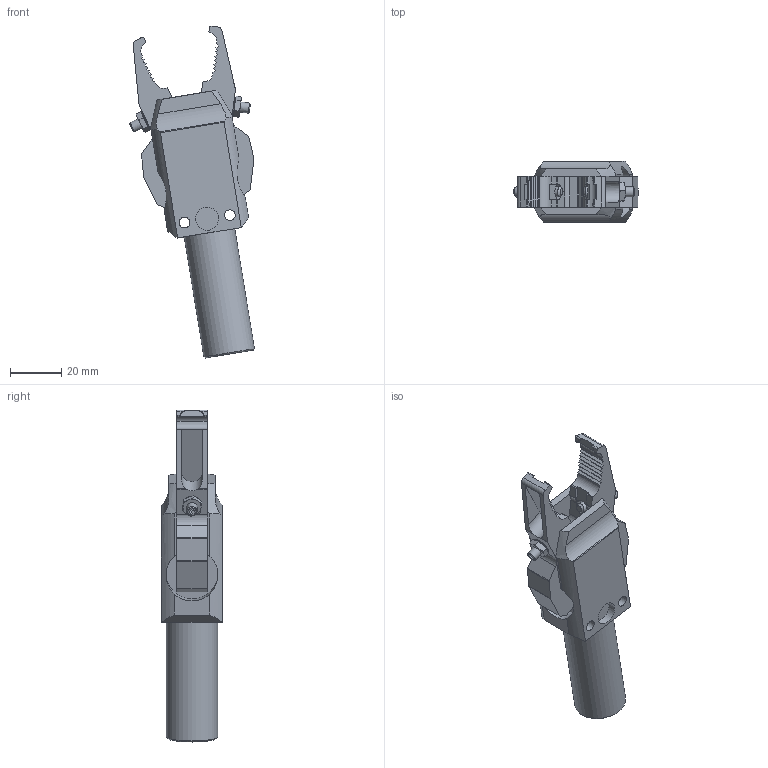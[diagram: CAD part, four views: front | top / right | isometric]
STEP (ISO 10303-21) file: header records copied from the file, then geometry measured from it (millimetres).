
FILE_DESCRIPTION(('STEP AP214'),'1');
FILE_NAME('CA.GTS.1004.1414.stp','2021-09-22T13:52:13',(' '),(' '),'Spatial InterOp 3D',' ',' ');
FILE_SCHEMA(('AUTOMOTIVE_DESIGN { 1 0 10303 214 1 1 1 1 }'));
Length unit declared in the file: millimetre
Products named in the file (8): CA.GTS.1004.1414; GTS.1004.01 per sito; GTS.04.14; PAP.0405504; V.STM4X20; D.4; R.4.SCH; GTS.1004.14
Assembly tree (9 placements, depth 3):
  CA.GTS.1004.1414
    GTS.1004.01 per sito
    GTS.04.14  x2
      PAP.0405504
      V.STM4X20
      D.4
      R.4.SCH
      GTS.1004.14
Bounding box: 48.7 x 24 x 129.62 mm (x, y, z)
Volume: 52945.2 mm3; surface area: 21131.3 mm2
Topology: 13 solids, 13 shells, 687 faces, 1971 edges, 1311 vertices
Faces by surface type: plane 551, cylinder 95, cone 39, extrusion 2
Full cylindrical faces by diameter (mm): 3.242 x2, 3.3 x2, 4 x6, 4.05 x2, 4.2 x2, 4.3 x2, 5.5 x6, 6 x2, 7 x2, 9 x2, 20 x1, 20.3 x2
Entity records: 15738 total; most frequent: CARTESIAN_POINT 2569, ORIENTED_EDGE 2066, DIRECTION 2054, EDGE_CURVE 1033, AXIS2_PLACEMENT_3D 710, VERTEX_POINT 702, VECTOR 634, LINE 632
